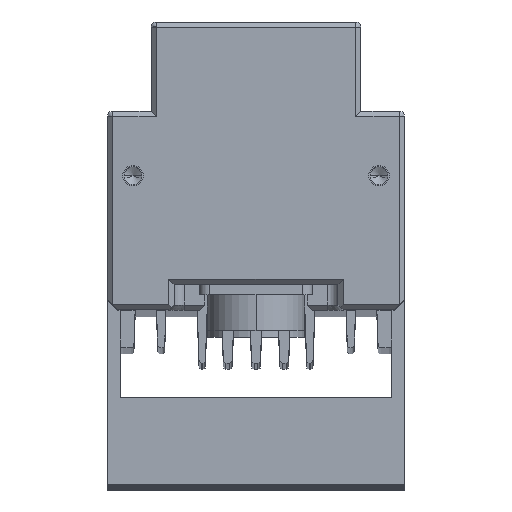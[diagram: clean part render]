
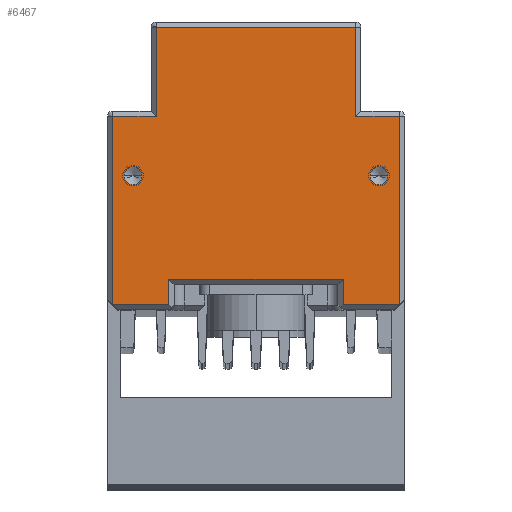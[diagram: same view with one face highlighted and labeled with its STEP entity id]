
A CAD part, top view. The second image highlights one B-rep face of the part: STEP entity #6467.
In plain terms, the highlighted planar face has unit normal (0, 0, 1).
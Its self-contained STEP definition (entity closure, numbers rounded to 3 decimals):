
#761=DIRECTION('',(1.,0.,0.));
#762=VECTOR('',#761,11.);
#763=CARTESIAN_POINT('',(-28.,-9.406,385.));
#764=LINE('',#763,#762);
#765=DIRECTION('',(0.,-1.,0.));
#766=VECTOR('',#765,36.8);
#767=CARTESIAN_POINT('',(-28.,27.394,385.));
#768=LINE('',#767,#766);
#769=DIRECTION('',(-1.,0.,0.));
#770=VECTOR('',#769,8.55);
#771=CARTESIAN_POINT('',(-19.45,27.394,385.));
#772=LINE('',#771,#770);
#773=DIRECTION('',(0.,-1.,0.));
#774=VECTOR('',#773,17.4);
#775=CARTESIAN_POINT('',(-19.45,44.794,385.));
#776=LINE('',#775,#774);
#777=DIRECTION('',(-1.,0.,0.));
#778=VECTOR('',#777,38.899);
#779=CARTESIAN_POINT('',(19.45,44.794,385.));
#780=LINE('',#779,#778);
#781=DIRECTION('',(0.,1.,0.));
#782=VECTOR('',#781,17.4);
#783=CARTESIAN_POINT('',(19.45,27.394,385.));
#784=LINE('',#783,#782);
#785=DIRECTION('',(-1.,0.,0.));
#786=VECTOR('',#785,8.55);
#787=CARTESIAN_POINT('',(28.,27.394,385.));
#788=LINE('',#787,#786);
#789=DIRECTION('',(0.,1.,0.));
#790=VECTOR('',#789,36.8);
#791=CARTESIAN_POINT('',(28.,-9.406,385.));
#792=LINE('',#791,#790);
#793=DIRECTION('',(1.,0.,0.));
#794=VECTOR('',#793,11.);
#795=CARTESIAN_POINT('',(17.,-9.406,385.));
#796=LINE('',#795,#794);
#797=DIRECTION('',(0.,-1.,0.));
#798=VECTOR('',#797,5.);
#799=CARTESIAN_POINT('',(17.,-4.406,385.));
#800=LINE('',#799,#798);
#801=DIRECTION('',(-1.,0.,0.));
#802=VECTOR('',#801,34.);
#803=CARTESIAN_POINT('',(17.,-4.406,385.));
#804=LINE('',#803,#802);
#805=DIRECTION('',(0.,1.,0.));
#806=VECTOR('',#805,5.);
#807=CARTESIAN_POINT('',(-17.,-9.406,385.));
#808=LINE('',#807,#806);
#809=CARTESIAN_POINT('',(24.,15.794,385.));
#810=DIRECTION('',(0.,0.,-1.));
#811=DIRECTION('',(1.,0.,0.));
#812=AXIS2_PLACEMENT_3D('',#809,#810,#811);
#814=CARTESIAN_POINT('',(24.,15.794,385.));
#815=DIRECTION('',(0.,0.,-1.));
#816=DIRECTION('',(-1.,0.,0.));
#817=AXIS2_PLACEMENT_3D('',#814,#815,#816);
#819=CARTESIAN_POINT('',(-24.,15.794,385.));
#820=DIRECTION('',(0.,0.,-1.));
#821=DIRECTION('',(1.,0.,0.));
#822=AXIS2_PLACEMENT_3D('',#819,#820,#821);
#824=CARTESIAN_POINT('',(-24.,15.794,385.));
#825=DIRECTION('',(0.,0.,-1.));
#826=DIRECTION('',(-1.,0.,0.));
#827=AXIS2_PLACEMENT_3D('',#824,#825,#826);
#4710=CARTESIAN_POINT('',(-28.,-9.406,385.));
#4711=CARTESIAN_POINT('',(-17.,-9.406,385.));
#4712=VERTEX_POINT('',#4710);
#4713=VERTEX_POINT('',#4711);
#4722=CARTESIAN_POINT('',(-28.,27.394,385.));
#4723=VERTEX_POINT('',#4722);
#4726=CARTESIAN_POINT('',(-19.45,27.394,385.));
#4727=VERTEX_POINT('',#4726);
#4730=CARTESIAN_POINT('',(19.45,27.394,385.));
#4731=CARTESIAN_POINT('',(19.45,44.794,385.));
#4732=VERTEX_POINT('',#4730);
#4733=VERTEX_POINT('',#4731);
#4740=CARTESIAN_POINT('',(-19.45,44.794,385.));
#4741=VERTEX_POINT('',#4740);
#4746=CARTESIAN_POINT('',(28.,-9.406,385.));
#4747=CARTESIAN_POINT('',(28.,27.394,385.));
#4748=VERTEX_POINT('',#4746);
#4749=VERTEX_POINT('',#4747);
#4760=CARTESIAN_POINT('',(17.,-9.406,385.));
#4761=VERTEX_POINT('',#4760);
#4782=CARTESIAN_POINT('',(17.,-4.406,385.));
#4783=VERTEX_POINT('',#4782);
#4784=CARTESIAN_POINT('',(-17.,-4.406,385.));
#4785=VERTEX_POINT('',#4784);
#5416=CARTESIAN_POINT('',(25.75,15.794,385.));
#5417=VERTEX_POINT('',#5416);
#5418=CARTESIAN_POINT('',(22.25,15.794,385.));
#5419=VERTEX_POINT('',#5418);
#5426=CARTESIAN_POINT('',(-22.25,15.794,385.));
#5427=VERTEX_POINT('',#5426);
#5428=CARTESIAN_POINT('',(-25.75,15.794,385.));
#5429=VERTEX_POINT('',#5428);
#6425=CARTESIAN_POINT('',(0.,0.,385.));
#6426=DIRECTION('',(0.,0.,1.));
#6427=DIRECTION('',(1.,0.,0.));
#6428=AXIS2_PLACEMENT_3D('',#6425,#6426,#6427);
#6429=PLANE('',#6428);
#6431=ORIENTED_EDGE('',*,*,#6430,.F.);
#6433=ORIENTED_EDGE('',*,*,#6432,.F.);
#6435=ORIENTED_EDGE('',*,*,#6434,.F.);
#6437=ORIENTED_EDGE('',*,*,#6436,.F.);
#6439=ORIENTED_EDGE('',*,*,#6438,.F.);
#6441=ORIENTED_EDGE('',*,*,#6440,.F.);
#6443=ORIENTED_EDGE('',*,*,#6442,.F.);
#6445=ORIENTED_EDGE('',*,*,#6444,.F.);
#6447=ORIENTED_EDGE('',*,*,#6446,.F.);
#6449=ORIENTED_EDGE('',*,*,#6448,.F.);
#6451=ORIENTED_EDGE('',*,*,#6450,.T.);
#6452=ORIENTED_EDGE('',*,*,#6414,.F.);
#6453=EDGE_LOOP('',(#6431,#6433,#6435,#6437,#6439,#6441,#6443,#6445,#6447,#6449,
#6451,#6452));
#6454=FACE_OUTER_BOUND('',#6453,.F.);
#6456=ORIENTED_EDGE('',*,*,#6455,.F.);
#6458=ORIENTED_EDGE('',*,*,#6457,.F.);
#6459=EDGE_LOOP('',(#6456,#6458));
#6460=FACE_BOUND('',#6459,.F.);
#6462=ORIENTED_EDGE('',*,*,#6461,.F.);
#6464=ORIENTED_EDGE('',*,*,#6463,.F.);
#6465=EDGE_LOOP('',(#6462,#6464));
#6466=FACE_BOUND('',#6465,.F.);
#813=CIRCLE('',#812,1.75);
#818=CIRCLE('',#817,1.75);
#823=CIRCLE('',#822,1.75);
#828=CIRCLE('',#827,1.75);
#6414=EDGE_CURVE('',#4713,#4785,#808,.T.);
#6430=EDGE_CURVE('',#4712,#4713,#764,.T.);
#6432=EDGE_CURVE('',#4723,#4712,#768,.T.);
#6434=EDGE_CURVE('',#4727,#4723,#772,.T.);
#6436=EDGE_CURVE('',#4741,#4727,#776,.T.);
#6438=EDGE_CURVE('',#4733,#4741,#780,.T.);
#6440=EDGE_CURVE('',#4732,#4733,#784,.T.);
#6442=EDGE_CURVE('',#4749,#4732,#788,.T.);
#6444=EDGE_CURVE('',#4748,#4749,#792,.T.);
#6446=EDGE_CURVE('',#4761,#4748,#796,.T.);
#6448=EDGE_CURVE('',#4783,#4761,#800,.T.);
#6450=EDGE_CURVE('',#4783,#4785,#804,.T.);
#6455=EDGE_CURVE('',#5417,#5419,#813,.T.);
#6457=EDGE_CURVE('',#5419,#5417,#818,.T.);
#6461=EDGE_CURVE('',#5427,#5429,#823,.T.);
#6463=EDGE_CURVE('',#5429,#5427,#828,.T.);
#6467=ADVANCED_FACE('',(#6454,#6460,#6466),#6429,.T.);
